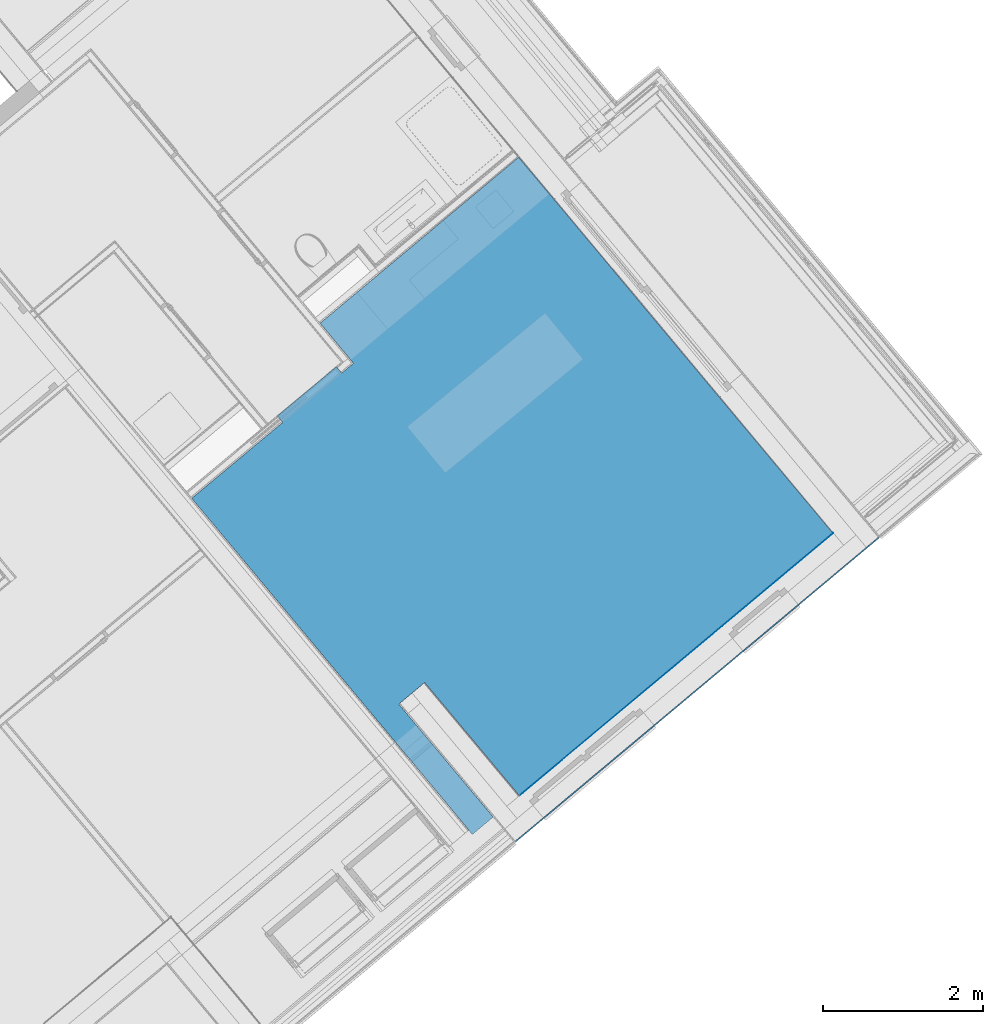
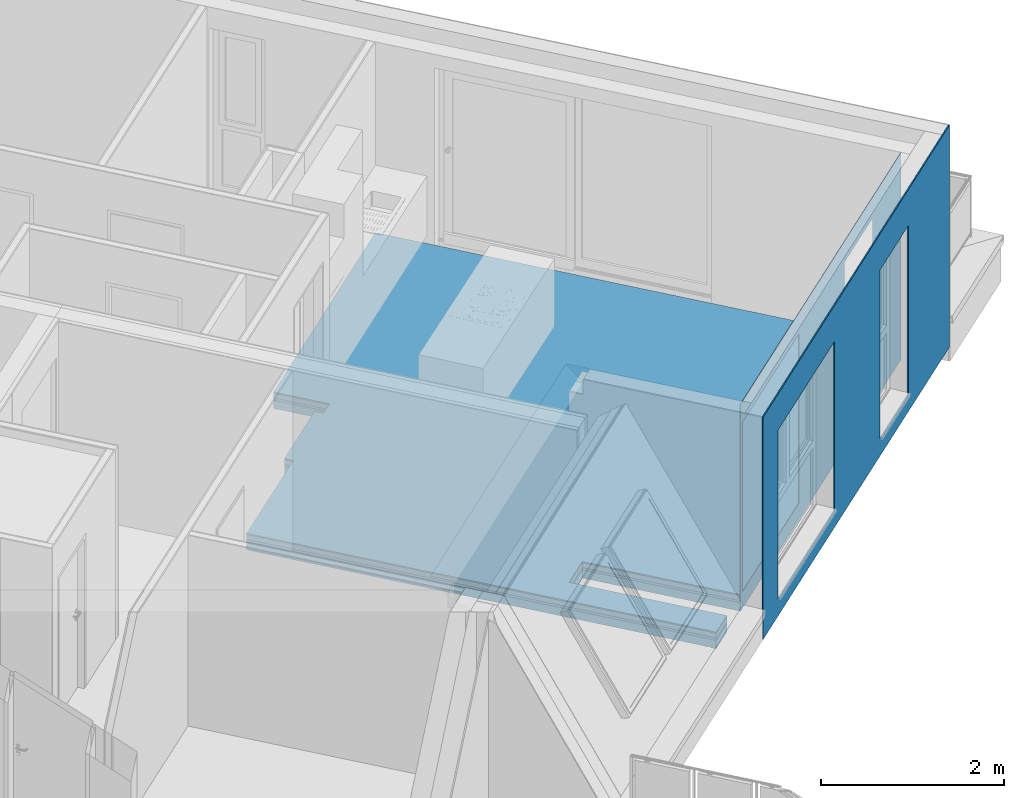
# One storey, part 29 of 58: 6 building element parts, 2 openings, 2 elements without a shape of their own.
"""IFC4 building model written with IfcOpenShell, lengths in metres."""

import ifcopenshell
import ifcopenshell.guid

model = None  # the IFC model being written
_history = None  # IfcOwnerHistory: only IFC2X3 demands one
_inside = {}  # id of a spatial element -> (the spatial element, [elements in it])
_under = {}  # id of a project, library or spatial element -> (it, [spatial elements below it])
_declared = {}  # id of a project -> (the project, [libraries it declares])
_typed = {}  # id of a type object -> (the type object, [elements of that type])
_made_of = {}  # id of a material, layer set ... -> (it, [elements and type objects made of it])


def new_model(schema):
    """Start an empty IFC model of exactly this schema.

    Asked for "IFC4X3", IfcOpenShell would pick the latest addendum, in which some entities
    have other attributes; the version numbers below select the first issue.
    IFC2X3 requires an IfcOwnerHistory on every rooted entity: one is made here for all.
    """
    global model, _history
    if schema == "IFC4X3":
        model = ifcopenshell.file(schema_version=(4, 3, 0, 0))
    else:
        model = ifcopenshell.file(schema=schema)
    _inside.clear()
    _under.clear()
    _declared.clear()
    _typed.clear()
    _made_of.clear()
    _history = None
    if model.schema == "IFC2X3":
        org = make("IfcOrganization", Name="unknown")
        user = make(
            "IfcPersonAndOrganization",
            ThePerson=make("IfcPerson", FamilyName="unknown"),
            TheOrganization=org,
        )
        app = make(
            "IfcApplication",
            ApplicationDeveloper=org,
            Version="unknown",
            ApplicationFullName="unknown",
            ApplicationIdentifier="unknown",
        )
        _history = make(
            "IfcOwnerHistory",
            OwningUser=user,
            OwningApplication=app,
            ChangeAction="ADDED",
            CreationDate=0,
        )
    return model


def make(cls, **values):
    """One entity of the class cls with the attributes given. An attribute that is None is left unset."""
    return model.create_entity(
        cls, **{name: value for name, value in values.items() if value is not None}
    )


def entity(cls, *values):
    """Any entity or typed value of the class cls, its attributes in the order of the schema. None: left unset."""
    e = model.create_entity(cls)
    for i, value in enumerate(values):
        if value is not None:
            e[i] = value
    return e


def rooted(cls, **values):
    """An entity with a GlobalId (a new one), such as an element, a storey or a relation."""
    return make(cls, GlobalId=ifcopenshell.guid.new(), OwnerHistory=_history, **values)


def si_unit(unit_type, name, prefix=None):
    """IfcSIUnit, for example si_unit("LENGTHUNIT", "METRE", prefix="MILLI")."""
    return make("IfcSIUnit", UnitType=unit_type, Prefix=prefix, Name=name)


def converted_unit(unit_type, name, factor, base, dimensions=None, offset=None):
    """IfcConversionBasedUnit, such as the inch: factor (a typed value) times the base unit."""
    return make(
        "IfcConversionBasedUnit"
        if offset is None
        else "IfcConversionBasedUnitWithOffset",
        ConversionOffset=offset,
        Dimensions=None
        if dimensions is None
        else entity("IfcDimensionalExponents", *dimensions),
        UnitType=unit_type,
        Name=name,
        ConversionFactor=make(
            "IfcMeasureWithUnit", ValueComponent=factor, UnitComponent=base
        ),
    )


def derived_unit(unit_type, elements):
    """IfcDerivedUnit: a product of units, each with its exponent."""
    return make(
        "IfcDerivedUnit",
        Elements=[
            make("IfcDerivedUnitElement", Unit=unit, Exponent=power)
            for unit, power in elements
        ],
        UnitType=unit_type,
    )


def assignment(units):
    """IfcUnitAssignment: the units of a project."""
    return None if units is None else make("IfcUnitAssignment", Units=units)


def point(xyz):
    """IfcCartesianPoint."""
    return None if xyz is None else make("IfcCartesianPoint", Coordinates=xyz)


def direction(xyz):
    """IfcDirection."""
    return None if xyz is None else make("IfcDirection", DirectionRatios=xyz)


def frame(location, z_axis=None, x_axis=None):
    """IfcAxis2Placement3D, a coordinate frame: its origin and axes. An axis left out is left unset."""
    return make(
        "IfcAxis2Placement3D",
        Location=point(location),
        Axis=direction(z_axis),
        RefDirection=direction(x_axis),
    )


def origin_with_axes():
    """The frame at (0, 0, 0) with the z axis (0, 0, 1) and the x axis (1, 0, 0) written out."""
    return frame((0.0, 0.0, 0.0), z_axis=(0.0, 0.0, 1.0), x_axis=(1.0, 0.0, 0.0))


def place(relative_to, where):
    """IfcLocalPlacement: puts the frame where relative to a parent placement (None: the world)."""
    return make(
        "IfcLocalPlacement", PlacementRelTo=relative_to, RelativePlacement=where
    )


def context(
    kind, dimensions, precision=None, world=None, true_north=None, identifier=None
):
    """IfcGeometricRepresentationContext, for example the 3D "Model" context."""
    return make(
        "IfcGeometricRepresentationContext",
        ContextIdentifier=identifier,
        ContextType=kind,
        CoordinateSpaceDimension=dimensions,
        Precision=precision,
        WorldCoordinateSystem=world,
        TrueNorth=true_north,
    )


def subcontext(parent, identifier, kind, view, scale=None):
    """IfcGeometricRepresentationSubContext, for example "Body" below "Model"."""
    return make(
        "IfcGeometricRepresentationSubContext",
        ContextIdentifier=identifier,
        ContextType=kind,
        ParentContext=parent,
        TargetScale=scale,
        TargetView=view,
    )


def project(units=None, contexts=None):
    """IfcProject with its units and contexts."""
    return rooted(
        "IfcProject",
        Name="project",
        RepresentationContexts=contexts,
        UnitsInContext=assignment(units),
    )


def spatial(cls, under=None, at=None, **own):
    """A site, building, storey or space (cls), placed at a placement, below another one or the project."""
    s = rooted(cls, ObjectPlacement=at, **own)
    if under is not None:
        _under.setdefault(under.id(), (under, []))[1].append(s)
    return s


def point_list(points):
    """IfcCartesianPointList2D or 3D."""
    cls = (
        "IfcCartesianPointList2D" if len(points[0]) == 2 else "IfcCartesianPointList3D"
    )
    return make(cls, CoordList=points)


def polygons(points, faces, closed=None, point_numbers=None):
    """IfcPolygonalFaceSet: a face is its outer loop, then its inner loops; points numbered from 1."""
    made = []
    for loops in faces:
        if len(loops) == 1:
            made.append(make("IfcIndexedPolygonalFace", CoordIndex=loops[0]))
        else:
            made.append(
                make(
                    "IfcIndexedPolygonalFaceWithVoids",
                    CoordIndex=loops[0],
                    InnerCoordIndices=loops[1:],
                )
            )
    return make(
        "IfcPolygonalFaceSet",
        Coordinates=point_list(points),
        Closed=closed,
        Faces=made,
        PnIndex=point_numbers,
    )


def shape(context_of_items, identifier, shape_type, items):
    """IfcShapeRepresentation: the items that make up one representation, for example the "Body"."""
    return make(
        "IfcShapeRepresentation",
        ContextOfItems=context_of_items,
        RepresentationIdentifier=identifier,
        RepresentationType=shape_type,
        Items=items,
    )


def material(Name=None, Category=None):
    """IfcMaterial."""
    return make("IfcMaterial", Name=Name, Category=Category)


def made_of(thing, what):
    """Note that an element or type object is made of a material, layer set ...; save() writes the relation."""
    if what is not None:
        _made_of.setdefault(what.id(), (what, []))[1].append(thing)
    return thing


def type_object(cls, material=None, **own):
    """A type object (cls), such as IfcWallType, which elements share."""
    return made_of(rooted(cls, **own), material)


def element(
    cls,
    number,
    at=None,
    inside=None,
    cuts=None,
    type_object=None,
    material=None,
    context=None,
    identifier="Body",
    shape_type=None,
    held_by="IfcProductDefinitionShape",
    body=None,
    shapes=None,
    **own,
):
    """One element of the class cls, such as IfcWall. Its Tag is "e" and its number.

    at: its placement. inside: the storey or other place that contains it. cuts: it is an
    opening in that element (IfcRelVoidsElement). A single representation is given by context,
    identifier, shape_type and body (its items); several are given by shapes. held_by: the class
    of the entity that holds the representations. save() writes the other relations.
    """
    e = rooted(cls, Tag="e%d" % number, ObjectPlacement=at, **own)
    if body is not None:
        shapes = [shape(context, identifier, shape_type, body)]
    if shapes is not None:
        e.Representation = make(held_by, Representations=shapes)
    if inside is not None:
        _inside.setdefault(inside.id(), (inside, []))[1].append(e)
    if cuts is not None:
        rooted(
            "IfcRelVoidsElement", RelatingBuildingElement=cuts, RelatedOpeningElement=e
        )
    if type_object is not None:
        _typed.setdefault(type_object.id(), (type_object, []))[1].append(e)
    return made_of(e, material)


def aggregate(whole, parts):
    """IfcRelAggregates: a whole, such as a stair, and the parts it consists of."""
    return rooted("IfcRelAggregates", RelatingObject=whole, RelatedObjects=parts)


def save(model, path):
    """Write the relations noted so far, then the file.

    IfcRelAggregates (storeys below a building ...), IfcRelContainedInSpatialStructure (elements
    in a storey), IfcRelDefinesByType, IfcRelAssociatesMaterial and IfcRelDeclares: one each for
    every whole, place, type object, material and project.
    """
    for whole, parts in _under.values():
        aggregate(whole, parts)
    for where, things in _inside.values():
        rooted(
            "IfcRelContainedInSpatialStructure",
            RelatedElements=things,
            RelatingStructure=where,
        )
    for kind, things in _typed.values():
        rooted("IfcRelDefinesByType", RelatedObjects=things, RelatingType=kind)
    for what, things in _made_of.values():
        rooted("IfcRelAssociatesMaterial", RelatedObjects=things, RelatingMaterial=what)
    for by, libraries in _declared.values():
        rooted("IfcRelDeclares", RelatingContext=by, RelatedDefinitions=libraries)
    model.write(path)


model = new_model("IFC4")

# Units and contexts
model_context = context("Model", 3, precision=1e-05, world=origin_with_axes(), true_north=direction((0.0, 1.0)))
body_context = subcontext(model_context, "Body", "Model", "MODEL_VIEW")
ifc_project = project(units=[si_unit("LENGTHUNIT", "METRE"), si_unit("AREAUNIT", "SQUARE_METRE"), si_unit("VOLUMEUNIT", "CUBIC_METRE"), converted_unit("PLANEANGLEUNIT", "DEGREE", entity("IfcPlaneAngleMeasure", 0.0174532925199), si_unit("PLANEANGLEUNIT", "RADIAN"), dimensions=[0, 0, 0, 0, 0, 0, 0]), converted_unit("TIMEUNIT", "Year", entity("IfcTimeMeasure", 31556926.0), si_unit("TIMEUNIT", "SECOND"), dimensions=[0, 0, 1, 0, 0, 0, 0]), si_unit("MASSUNIT", "GRAM", prefix="KILO"), si_unit("THERMODYNAMICTEMPERATUREUNIT", "DEGREE_CELSIUS"), si_unit("LUMINOUSINTENSITYUNIT", "LUMEN"), si_unit("ENERGYUNIT", "JOULE", prefix="MEGA"), derived_unit("THERMALCONDUCTANCEUNIT", [(si_unit("POWERUNIT", "WATT"), 1), (si_unit("LENGTHUNIT", "METRE"), -1), (si_unit("THERMODYNAMICTEMPERATUREUNIT", "KELVIN"), -1)]), derived_unit("SPECIFICHEATCAPACITYUNIT", [(si_unit("ENERGYUNIT", "JOULE"), 1), (si_unit("MASSUNIT", "GRAM", prefix="KILO"), -1), (si_unit("THERMODYNAMICTEMPERATUREUNIT", "KELVIN"), -1)]), derived_unit("MASSDENSITYUNIT", [(si_unit("MASSUNIT", "GRAM", prefix="KILO"), 1), (si_unit("VOLUMEUNIT", "CUBIC_METRE"), -1)])], contexts=[model_context])

# Site, building, storey
site_placement = place(None, frame((-0.00153261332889, -0.00661245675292, 0.0), z_axis=(0.0, 0.0, 1.0), x_axis=(1.0, 0.0, 0.0)))
site = spatial("IfcSite", under=ifc_project, at=site_placement, Name="Site", CompositionType="ELEMENT")
building_placement = place(site_placement, origin_with_axes())
building = spatial("IfcBuilding", under=site, at=building_placement, Name="Building", CompositionType="ELEMENT")
storey_placement = place(building_placement, frame((0.0, 0.0, 5.7), z_axis=(0.0, 0.0, 1.0), x_axis=(1.0, 0.0, 0.0)))
storey = spatial("IfcBuildingStorey", under=building, at=storey_placement, Name="DG1", CompositionType="ELEMENT", Elevation=5.7)

# Wall, openings, building element parts
wall_type = type_object("IfcWallType", Name="AW EG 420", PredefinedType="NOTDEFINED")
wall_placement = place(storey_placement, frame((13.3977586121, 20.2788070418, 0.0), z_axis=(0.0, 0.0, 1.0), x_axis=(-0.766948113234, -0.641709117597, 0.0)))
wall = element("IfcWall", 1, at=wall_placement, inside=storey, type_object=wall_type, Name="Wand-002", PredefinedType="NOTDEFINED")
opening_1_placement = place(wall_placement, frame((1.77299925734, 0.0, 0.22), z_axis=(0.0, 0.0, 1.0), x_axis=(1.0, 0.0, 0.0)))
element("IfcOpeningElement", 2, at=opening_1_placement, cuts=wall, Name="Fenster-001", context=body_context, identifier="Reference", shape_type="Tessellation", body=[
    polygons([(-0.45, -0.215, 0.0), (-0.45, -0.215, 2.26), (-0.45, 2.71896276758, 2.26), (-0.45, 2.71896276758, 0.0), (-0.45, -3.13896276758, 0.0), (-0.45, -3.13896276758, 2.26), (0.45, -0.215, 2.26), (0.45, 2.71896276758, 2.26), (0.45, -3.13896276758, 2.26), (0.45, 2.71896276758, 0.0), (0.45, -0.215, 0.0), (0.45, -3.13896276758, 0.0)], [[[1, 2, 3, 4]], [[2, 1, 5, 6]], [[7, 8, 3, 2, 6, 9]], [[8, 10, 4, 3]], [[1, 4, 10, 11, 12, 5]], [[6, 5, 12, 9]], [[7, 11, 10, 8]], [[11, 7, 9, 12]]], closed=True),
])
opening_2_placement = place(wall_placement, frame((4.56977629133, 0.0, 0.22), z_axis=(0.0, 0.0, 1.0), x_axis=(1.0, 0.0, 0.0)))
element("IfcOpeningElement", 3, at=opening_2_placement, cuts=wall, Name="Fenster-001", context=body_context, identifier="Reference", shape_type="Tessellation", body=[
    polygons([(-0.9, -0.215, 0.0), (-0.9, -0.215, 2.26), (-0.9, 2.71896276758, 2.26), (-0.9, 2.71896276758, 0.0), (-0.9, -3.13896276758, 0.0), (-0.9, -3.13896276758, 2.26), (0.9, -0.215, 2.26), (0.9, 2.71896276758, 2.26), (0.9, -3.13896276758, 2.26), (0.9, 2.71896276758, 0.0), (0.9, -0.215, 0.0), (0.9, -3.13896276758, 0.0)], [[[1, 2, 3, 4]], [[2, 1, 5, 6]], [[7, 8, 3, 2, 6, 9]], [[8, 10, 4, 3]], [[1, 4, 10, 11, 12, 5]], [[6, 5, 12, 9]], [[7, 11, 10, 8]], [[11, 7, 9, 12]]], closed=True),
])
ifc_material_1 = material(Name="Zementputz")
building_element_part_1_placement = place(wall_placement, origin_with_axes())
building_element_part_1 = element("IfcBuildingElementPart", 4, at=building_element_part_1_placement, material=ifc_material_1, Name="Zementputz", PredefinedType="NOTDEFINED", context=body_context, shape_type="Tessellation", body=[
    polygons([(0.0149902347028, -0.015, 2.96), (0.0149902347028, -0.015, 0.0), (5.94254559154, -0.015, 0.0), (5.94254559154, -0.015, 2.96), (1.32299925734, -0.015, 0.22), (1.32299925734, -0.015, 2.48), (2.22299925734, -0.015, 2.48), (2.22299925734, -0.015, 0.22), (5.46977629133, -0.015, 0.22), (3.66977629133, -0.015, 0.22), (3.66977629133, -0.015, 2.48), (5.46977629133, -0.015, 2.48), (0.0150000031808, 0.0, 2.96), (0.0150000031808, 0.0, 0.0), (5.94254559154, 0.0, 0.0), (5.94254559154, 0.0, 2.96), (1.32299925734, 0.0, 2.48), (1.32299925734, 0.0, 0.22), (2.22299925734, 0.0, 2.48), (2.22299925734, 0.0, 0.22), (5.46977629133, 0.0, 0.22), (3.66977629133, 0.0, 0.22), (3.66977629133, 0.0, 2.48), (5.46977629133, 0.0, 2.48)], [[[1, 2, 3, 4], [5, 6, 7, 8], [9, 10, 11, 12]], [[13, 14, 2, 1]], [[2, 14, 15, 3]], [[3, 15, 16, 4]], [[13, 1, 4, 16]], [[17, 6, 5, 18]], [[19, 7, 6, 17]], [[20, 8, 7, 19]], [[18, 5, 8, 20]], [[21, 22, 10, 9]], [[22, 23, 11, 10]], [[23, 24, 12, 11]], [[24, 21, 9, 12]], [[14, 13, 16, 15], [19, 17, 18, 20], [21, 24, 23, 22]]], closed=True),
])
building_element_part_2_placement = place(wall_placement, origin_with_axes())
building_element_part_2 = element("IfcBuildingElementPart", 5, at=building_element_part_2_placement, material=ifc_material_1, Name="Zementputz", PredefinedType="NOTDEFINED", context=body_context, shape_type="Tessellation", body=[
    polygons([(0.419726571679, -0.42, 0.0), (5.52754559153, -0.42, 0.0), (5.52754559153, -0.42, 2.76), (0.419726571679, -0.42, 2.76), (1.32299925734, -0.42, 0.22), (1.32299925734, -0.42, 2.48), (2.22299925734, -0.42, 2.48), (2.22299925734, -0.42, 0.22), (5.46977629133, -0.42, 0.22), (3.66977629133, -0.42, 0.22), (3.66977629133, -0.42, 2.48), (5.46977629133, -0.42, 2.48), (0.419729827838, -0.415, 0.0), (5.52754559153, -0.415, 0.0), (5.52754559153, -0.415, 2.76), (0.419729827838, -0.415, 2.76), (1.32299925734, -0.415, 2.48), (1.32299925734, -0.415, 0.22), (2.22299925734, -0.415, 2.48), (2.22299925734, -0.415, 0.22), (5.46977629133, -0.415, 0.22), (3.66977629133, -0.415, 0.22), (3.66977629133, -0.415, 2.48), (5.46977629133, -0.415, 2.48)], [[[1, 2, 3, 4], [5, 6, 7, 8], [9, 10, 11, 12]], [[1, 13, 14, 2]], [[2, 14, 15, 3]], [[4, 3, 15, 16]], [[13, 1, 4, 16]], [[17, 6, 5, 18]], [[19, 7, 6, 17]], [[20, 8, 7, 19]], [[18, 5, 8, 20]], [[21, 22, 10, 9]], [[22, 23, 11, 10]], [[23, 24, 12, 11]], [[24, 21, 9, 12]], [[14, 13, 16, 15], [19, 17, 18, 20], [21, 24, 23, 22]]], closed=True),
])
aggregate(wall, [building_element_part_1, building_element_part_2])

# Covering, building element parts
covering_type = type_object("IfcCoveringType", Name="DE 01 Decke Wohnung/Wohnung Parkett 220", PredefinedType="NOTDEFINED")
covering_placement = place(storey_placement, frame((4.8062497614, 20.7617750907, 0.22), z_axis=(0.0, 0.0, 1.0), x_axis=(1.0, 0.0, 0.0)))
covering = element("IfcCovering", 6, at=covering_placement, inside=storey, type_object=covering_type, Name="Decke-005", PredefinedType="NOTDEFINED")
ifc_material_2 = material(Name="Parkett")
building_element_part_3_placement = place(covering_placement, origin_with_axes())
building_element_part_3 = element("IfcBuildingElementPart", 7, at=building_element_part_3_placement, material=ifc_material_2, Name="Parkett", PredefinedType="NOTDEFINED", context=body_context, shape_type="Tessellation", body=[
    polygons([(3.4593314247, -4.13683271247, 0.0), (3.4558358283, -4.13975325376, 0.0), (3.5013638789, -4.19429140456, 0.0), (3.76436689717, -3.97423553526, 0.0), (2.58610046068, -2.5660130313, 0.0), (2.90821866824, -2.29649520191, 0.0), (4.08648509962, -3.70471769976, 0.0), (8.00008249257, -0.43019226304, 0.0), (4.08241896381, 4.25826166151, 0.0), (1.60254077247, 2.18607990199, 0.0), (2.02036092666, 1.68605464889, 0.0), (1.87463459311, 1.56444150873, 0.0), (1.80735832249, 1.64505720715, 0.0), (1.07030040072, 1.02995917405, 0.0), (1.13757667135, 0.94934347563, 0.0), (0.00179266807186, 0.00149603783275, 0.0), (3.4593314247, -4.13683271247, -0.015), (3.4558358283, -4.13975325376, -0.015), (3.5013638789, -4.19429140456, -0.015), (3.76436689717, -3.97423553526, -0.015), (2.58610046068, -2.5660130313, -0.015), (2.90821866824, -2.29649520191, -0.015), (4.08648509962, -3.70471769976, -0.015), (8.00008249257, -0.43019226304, -0.015), (4.08241896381, 4.25826166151, -0.015), (1.60254077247, 2.18607990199, -0.015), (2.02036092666, 1.68605464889, -0.015), (1.87463459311, 1.56444150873, -0.015), (1.80735832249, 1.64505720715, -0.015), (1.07030040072, 1.02995917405, -0.015), (1.13757667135, 0.94934347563, -0.015), (0.00179266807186, 0.00149603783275, -0.015)], [[[1, 2, 3, 4, 5, 6, 7, 8, 9, 10, 11, 12, 13, 14, 15, 16]], [[2, 1, 17, 18]], [[2, 18, 19, 3]], [[20, 4, 3, 19]], [[5, 4, 20, 21]], [[5, 21, 22, 6]], [[23, 7, 6, 22]], [[7, 23, 24, 8]], [[24, 25, 9, 8]], [[25, 26, 10, 9]], [[26, 27, 11, 10]], [[27, 28, 12, 11]], [[28, 29, 13, 12]], [[29, 30, 14, 13]], [[30, 31, 15, 14]], [[32, 16, 15, 31]], [[1, 16, 32, 17]], [[17, 32, 31, 30, 29, 28, 27, 26, 25, 24, 23, 22, 21, 20, 19, 18]]], closed=True),
])
ifc_material_3 = material(Name="Estrich")
building_element_part_4_placement = place(covering_placement, origin_with_axes())
building_element_part_4 = element("IfcBuildingElementPart", 8, at=building_element_part_4_placement, material=ifc_material_3, Name="Estrich", PredefinedType="NOTDEFINED", context=body_context, shape_type="Tessellation", body=[
    polygons([(3.4593314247, -4.13683271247, -0.015), (3.4558358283, -4.13975325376, -0.015), (3.5013638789, -4.19429140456, -0.015), (3.76436689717, -3.97423553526, -0.015), (2.58610046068, -2.5660130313, -0.015), (2.90821866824, -2.29649520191, -0.015), (4.08648509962, -3.70471769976, -0.015), (8.00008249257, -0.43019226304, -0.015), (4.08241896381, 4.25826166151, -0.015), (1.60254077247, 2.18607990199, -0.015), (2.02036092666, 1.68605464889, -0.015), (1.87463459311, 1.56444150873, -0.015), (1.80735832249, 1.64505720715, -0.015), (1.07030040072, 1.02995917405, -0.015), (1.13757667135, 0.94934347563, -0.015), (0.00179266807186, 0.00149603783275, -0.015), (3.4593314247, -4.13683271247, -0.08), (3.4558358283, -4.13975325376, -0.08), (3.5013638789, -4.19429140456, -0.08), (3.76436689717, -3.97423553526, -0.08), (2.58610046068, -2.5660130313, -0.08), (2.90821866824, -2.29649520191, -0.08), (4.08648509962, -3.70471769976, -0.08), (8.00008249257, -0.43019226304, -0.08), (4.08241896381, 4.25826166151, -0.08), (1.60254077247, 2.18607990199, -0.08), (2.02036092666, 1.68605464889, -0.08), (1.87463459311, 1.56444150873, -0.08), (1.80735832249, 1.64505720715, -0.08), (1.07030040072, 1.02995917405, -0.08), (1.13757667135, 0.94934347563, -0.08), (0.00179266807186, 0.00149603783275, -0.08)], [[[1, 2, 3, 4, 5, 6, 7, 8, 9, 10, 11, 12, 13, 14, 15, 16]], [[2, 1, 17, 18]], [[2, 18, 19, 3]], [[20, 4, 3, 19]], [[5, 4, 20, 21]], [[5, 21, 22, 6]], [[23, 7, 6, 22]], [[7, 23, 24, 8]], [[24, 25, 9, 8]], [[25, 26, 10, 9]], [[26, 27, 11, 10]], [[27, 28, 12, 11]], [[28, 29, 13, 12]], [[29, 30, 14, 13]], [[30, 31, 15, 14]], [[32, 16, 15, 31]], [[1, 16, 32, 17]], [[17, 32, 31, 30, 29, 28, 27, 26, 25, 24, 23, 22, 21, 20, 19, 18]]], closed=True),
])
ifc_material_4 = material(Name="Trittschalldämmung")
building_element_part_5_placement = place(covering_placement, origin_with_axes())
building_element_part_5 = element("IfcBuildingElementPart", 9, at=building_element_part_5_placement, material=ifc_material_4, Name="Trittschalldämmung", PredefinedType="NOTDEFINED", context=body_context, shape_type="Tessellation", body=[
    polygons([(3.4593314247, -4.13683271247, -0.08), (3.4558358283, -4.13975325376, -0.08), (3.5013638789, -4.19429140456, -0.08), (3.76436689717, -3.97423553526, -0.08), (2.58610046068, -2.5660130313, -0.08), (2.90821866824, -2.29649520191, -0.08), (4.08648509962, -3.70471769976, -0.08), (8.00008249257, -0.43019226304, -0.08), (4.08241896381, 4.25826166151, -0.08), (1.60254077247, 2.18607990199, -0.08), (2.02036092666, 1.68605464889, -0.08), (1.87463459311, 1.56444150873, -0.08), (1.80735832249, 1.64505720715, -0.08), (1.07030040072, 1.02995917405, -0.08), (1.13757667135, 0.94934347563, -0.08), (0.00179266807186, 0.00149603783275, -0.08), (3.4593314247, -4.13683271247, -0.11), (3.4558358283, -4.13975325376, -0.11), (3.5013638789, -4.19429140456, -0.11), (3.76436689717, -3.97423553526, -0.11), (2.58610046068, -2.5660130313, -0.11), (2.90821866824, -2.29649520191, -0.11), (4.08648509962, -3.70471769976, -0.11), (8.00008249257, -0.43019226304, -0.11), (4.08241896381, 4.25826166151, -0.11), (1.60254077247, 2.18607990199, -0.11), (2.02036092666, 1.68605464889, -0.11), (1.87463459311, 1.56444150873, -0.11), (1.80735832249, 1.64505720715, -0.11), (1.07030040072, 1.02995917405, -0.11), (1.13757667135, 0.94934347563, -0.11), (0.00179266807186, 0.00149603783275, -0.11)], [[[1, 2, 3, 4, 5, 6, 7, 8, 9, 10, 11, 12, 13, 14, 15, 16]], [[2, 1, 17, 18]], [[2, 18, 19, 3]], [[20, 4, 3, 19]], [[5, 4, 20, 21]], [[5, 21, 22, 6]], [[23, 7, 6, 22]], [[7, 23, 24, 8]], [[24, 25, 9, 8]], [[25, 26, 10, 9]], [[26, 27, 11, 10]], [[27, 28, 12, 11]], [[28, 29, 13, 12]], [[29, 30, 14, 13]], [[30, 31, 15, 14]], [[32, 16, 15, 31]], [[1, 16, 32, 17]], [[17, 32, 31, 30, 29, 28, 27, 26, 25, 24, 23, 22, 21, 20, 19, 18]]], closed=True),
])
ifc_material_5 = material(Name="Schüttung")
building_element_part_6_placement = place(covering_placement, origin_with_axes())
building_element_part_6 = element("IfcBuildingElementPart", 10, at=building_element_part_6_placement, material=ifc_material_5, Name="Schüttung", PredefinedType="NOTDEFINED", context=body_context, shape_type="Tessellation", body=[
    polygons([(3.4593314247, -4.13683271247, -0.11), (3.4558358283, -4.13975325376, -0.11), (3.5013638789, -4.19429140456, -0.11), (3.76436689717, -3.97423553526, -0.11), (2.58610046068, -2.5660130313, -0.11), (2.90821866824, -2.29649520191, -0.11), (4.08648509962, -3.70471769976, -0.11), (8.00008249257, -0.43019226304, -0.11), (4.08241896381, 4.25826166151, -0.11), (1.60254077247, 2.18607990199, -0.11), (2.02036092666, 1.68605464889, -0.11), (1.87463459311, 1.56444150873, -0.11), (1.80735832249, 1.64505720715, -0.11), (1.07030040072, 1.02995917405, -0.11), (1.13757667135, 0.94934347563, -0.11), (0.00179266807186, 0.00149603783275, -0.11), (3.4593314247, -4.13683271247, -0.22), (3.4558358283, -4.13975325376, -0.22), (3.5013638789, -4.19429140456, -0.22), (3.76436689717, -3.97423553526, -0.22), (2.58610046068, -2.5660130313, -0.22), (2.90821866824, -2.29649520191, -0.22), (4.08648509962, -3.70471769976, -0.22), (8.00008249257, -0.43019226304, -0.22), (4.08241896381, 4.25826166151, -0.22), (1.60254077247, 2.18607990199, -0.22), (2.02036092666, 1.68605464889, -0.22), (1.87463459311, 1.56444150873, -0.22), (1.80735832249, 1.64505720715, -0.22), (1.07030040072, 1.02995917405, -0.22), (1.13757667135, 0.94934347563, -0.22), (0.00179266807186, 0.00149603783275, -0.22)], [[[1, 2, 3, 4, 5, 6, 7, 8, 9, 10, 11, 12, 13, 14, 15, 16]], [[2, 1, 17, 18]], [[2, 18, 19, 3]], [[20, 4, 3, 19]], [[5, 4, 20, 21]], [[5, 21, 22, 6]], [[23, 7, 6, 22]], [[7, 23, 24, 8]], [[8, 24, 25, 9]], [[9, 25, 26, 10]], [[10, 26, 27, 11]], [[11, 27, 28, 12]], [[12, 28, 29, 13]], [[13, 29, 30, 14]], [[14, 30, 31, 15]], [[32, 16, 15, 31]], [[1, 16, 32, 17]], [[17, 32, 31, 30, 29, 28, 27, 26, 25, 24, 23, 22, 21, 20, 19, 18]]], closed=True),
])
aggregate(covering, [building_element_part_3, building_element_part_4, building_element_part_5, building_element_part_6])

save(model, "model.ifc")
